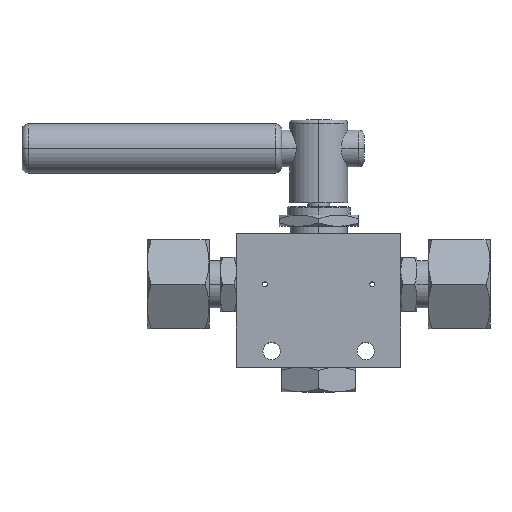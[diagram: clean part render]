
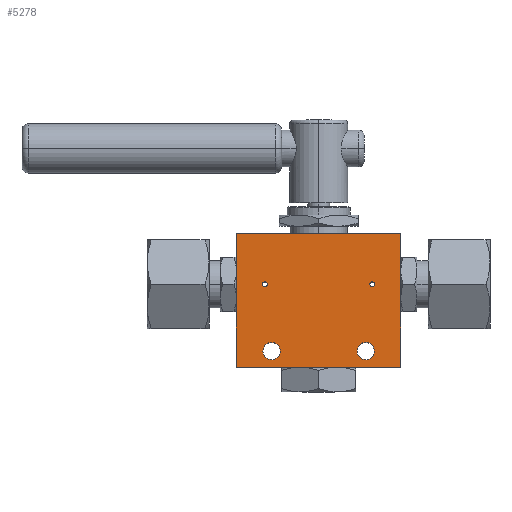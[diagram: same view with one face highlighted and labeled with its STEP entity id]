
A CAD part, top view. The second image highlights one B-rep face of the part: STEP entity #5278.
In plain terms, the highlighted planar face has unit normal (0, 0, 1).
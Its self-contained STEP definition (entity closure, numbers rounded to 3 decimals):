
#29 = CARTESIAN_POINT ( 'NONE',  ( -33.25, -27., 19. ) ) ;
#152 = CARTESIAN_POINT ( 'NONE',  ( -21.75, 6.5, 19. ) ) ;
#190 = CARTESIAN_POINT ( 'NONE',  ( 15.55, -20.5, 19. ) ) ;
#229 = FACE_BOUND ( 'NONE', #2037, .T. ) ;
#238 = DIRECTION ( 'NONE',  ( 0., 0., 1. ) ) ;
#538 = VERTEX_POINT ( 'NONE', #4428 ) ;
#629 = DIRECTION ( 'NONE',  ( 1., 0., 0. ) ) ;
#630 = VERTEX_POINT ( 'NONE', #2811 ) ;
#645 = EDGE_LOOP ( 'NONE', ( #3289, #1374, #3739, #3247 ) ) ;
#705 = CIRCLE ( 'NONE', #1522, 1. ) ;
#788 = FACE_OUTER_BOUND ( 'NONE', #645, .T. ) ;
#803 = EDGE_LOOP ( 'NONE', ( #3395, #1727 ) ) ;
#827 = VECTOR ( 'NONE', #2229, 1000. ) ;
#880 = CARTESIAN_POINT ( 'NONE',  ( -33.25, 27., 19. ) ) ;
#904 = EDGE_LOOP ( 'NONE', ( #2165, #2000 ) ) ;
#916 = EDGE_CURVE ( 'NONE', #5184, #3491, #5182, .T. ) ;
#936 = ORIENTED_EDGE ( 'NONE', *, *, #4090, .F. ) ;
#1009 = LINE ( 'NONE', #29, #1417 ) ;
#1077 = EDGE_CURVE ( 'NONE', #5290, #2723, #2966, .T. ) ;
#1149 = FACE_BOUND ( 'NONE', #3352, .T. ) ;
#1296 = DIRECTION ( 'NONE',  ( -1., 0., 0. ) ) ;
#1307 = CARTESIAN_POINT ( 'NONE',  ( -33.25, -27., 19. ) ) ;
#1311 = EDGE_CURVE ( 'NONE', #1761, #4190, #5627, .T. ) ;
#1349 = EDGE_CURVE ( 'NONE', #2723, #5290, #2759, .T. ) ;
#1374 = ORIENTED_EDGE ( 'NONE', *, *, #1311, .T. ) ;
#1417 = VECTOR ( 'NONE', #4459, 1000. ) ;
#1522 = AXIS2_PLACEMENT_3D ( 'NONE', #3513, #3957, #629 ) ;
#1616 = AXIS2_PLACEMENT_3D ( 'NONE', #152, #3892, #2532 ) ;
#1674 = CARTESIAN_POINT ( 'NONE',  ( 33.25, -27., 19. ) ) ;
#1727 = ORIENTED_EDGE ( 'NONE', *, *, #2896, .F. ) ;
#1761 = VERTEX_POINT ( 'NONE', #6211 ) ;
#1776 = LINE ( 'NONE', #3236, #3351 ) ;
#1778 = DIRECTION ( 'NONE',  ( 1., 0., 0. ) ) ;
#1786 = CARTESIAN_POINT ( 'NONE',  ( -33.25, 27., 19. ) ) ;
#1791 = DIRECTION ( 'NONE',  ( 1., 0., 0. ) ) ;
#1808 = CARTESIAN_POINT ( 'NONE',  ( -19.05, -20.5, 19. ) ) ;
#1868 = CARTESIAN_POINT ( 'NONE',  ( 20.75, 6.5, 19. ) ) ;
#1896 = CARTESIAN_POINT ( 'NONE',  ( -15.55, -20.5, 19. ) ) ;
#1993 = CARTESIAN_POINT ( 'NONE',  ( 22.55, -20.5, 19. ) ) ;
#2000 = ORIENTED_EDGE ( 'NONE', *, *, #1349, .F. ) ;
#2037 = EDGE_LOOP ( 'NONE', ( #4623, #936 ) ) ;
#2160 = PLANE ( 'NONE',  #3447 ) ;
#2165 = ORIENTED_EDGE ( 'NONE', *, *, #1077, .F. ) ;
#2167 = DIRECTION ( 'NONE',  ( 1., 0., 0. ) ) ;
#2189 = VERTEX_POINT ( 'NONE', #1896 ) ;
#2223 = EDGE_CURVE ( 'NONE', #630, #538, #4255, .T. ) ;
#2229 = DIRECTION ( 'NONE',  ( -1., 0., 0. ) ) ;
#2238 = EDGE_CURVE ( 'NONE', #4190, #2880, #1009, .T. ) ;
#2266 = CARTESIAN_POINT ( 'NONE',  ( 21.75, 6.5, 19. ) ) ;
#2532 = DIRECTION ( 'NONE',  ( 1., 0., 0. ) ) ;
#2553 = EDGE_CURVE ( 'NONE', #2880, #3564, #2748, .T. ) ;
#2671 = CARTESIAN_POINT ( 'NONE',  ( 0., 0., 19. ) ) ;
#2692 = CARTESIAN_POINT ( 'NONE',  ( 19.05, -20.5, 19. ) ) ;
#2723 = VERTEX_POINT ( 'NONE', #5821 ) ;
#2726 = FACE_BOUND ( 'NONE', #904, .T. ) ;
#2748 = LINE ( 'NONE', #4262, #5473 ) ;
#2759 = CIRCLE ( 'NONE', #4376, 1. ) ;
#2811 = CARTESIAN_POINT ( 'NONE',  ( -22.75, 6.5, 19. ) ) ;
#2880 = VERTEX_POINT ( 'NONE', #1307 ) ;
#2896 = EDGE_CURVE ( 'NONE', #2189, #4322, #4559, .T. ) ;
#2966 = CIRCLE ( 'NONE', #3255, 1. ) ;
#3081 = DIRECTION ( 'NONE',  ( 0., 0., 1. ) ) ;
#3134 = ORIENTED_EDGE ( 'NONE', *, *, #3452, .F. ) ;
#3236 = CARTESIAN_POINT ( 'NONE',  ( 33.25, -27., 19. ) ) ;
#3247 = ORIENTED_EDGE ( 'NONE', *, *, #2553, .T. ) ;
#3249 = CARTESIAN_POINT ( 'NONE',  ( 21.75, 6.5, 19. ) ) ;
#3255 = AXIS2_PLACEMENT_3D ( 'NONE', #2266, #6132, #1791 ) ;
#3289 = ORIENTED_EDGE ( 'NONE', *, *, #4801, .T. ) ;
#3343 = AXIS2_PLACEMENT_3D ( 'NONE', #1808, #4217, #1778 ) ;
#3351 = VECTOR ( 'NONE', #3711, 1000. ) ;
#3352 = EDGE_LOOP ( 'NONE', ( #4586, #3134 ) ) ;
#3395 = ORIENTED_EDGE ( 'NONE', *, *, #6013, .F. ) ;
#3447 = AXIS2_PLACEMENT_3D ( 'NONE', #2671, #6242, #1296 ) ;
#3452 = EDGE_CURVE ( 'NONE', #538, #630, #705, .T. ) ;
#3468 = DIRECTION ( 'NONE',  ( 1., 0., 0. ) ) ;
#3491 = VERTEX_POINT ( 'NONE', #1993 ) ;
#3513 = CARTESIAN_POINT ( 'NONE',  ( -21.75, 6.5, 19. ) ) ;
#3564 = VERTEX_POINT ( 'NONE', #1674 ) ;
#3711 = DIRECTION ( 'NONE',  ( 0., 1., 0. ) ) ;
#3739 = ORIENTED_EDGE ( 'NONE', *, *, #2238, .T. ) ;
#3877 = CARTESIAN_POINT ( 'NONE',  ( 19.05, -20.5, 19. ) ) ;
#3892 = DIRECTION ( 'NONE',  ( 0., 0., 1. ) ) ;
#3957 = DIRECTION ( 'NONE',  ( 0., 0., 1. ) ) ;
#4090 = EDGE_CURVE ( 'NONE', #3491, #5184, #6142, .T. ) ;
#4190 = VERTEX_POINT ( 'NONE', #880 ) ;
#4217 = DIRECTION ( 'NONE',  ( 0., 0., 1. ) ) ;
#4255 = CIRCLE ( 'NONE', #1616, 1. ) ;
#4262 = CARTESIAN_POINT ( 'NONE',  ( -33.25, -27., 19. ) ) ;
#4322 = VERTEX_POINT ( 'NONE', #6204 ) ;
#4376 = AXIS2_PLACEMENT_3D ( 'NONE', #3249, #4703, #6098 ) ;
#4428 = CARTESIAN_POINT ( 'NONE',  ( -20.75, 6.5, 19. ) ) ;
#4459 = DIRECTION ( 'NONE',  ( 0., -1., 0. ) ) ;
#4559 = CIRCLE ( 'NONE', #3343, 3.5 ) ;
#4586 = ORIENTED_EDGE ( 'NONE', *, *, #2223, .F. ) ;
#4623 = ORIENTED_EDGE ( 'NONE', *, *, #916, .F. ) ;
#4656 = FACE_BOUND ( 'NONE', #803, .T. ) ;
#4703 = DIRECTION ( 'NONE',  ( 0., 0., 1. ) ) ;
#4758 = AXIS2_PLACEMENT_3D ( 'NONE', #5051, #238, #2167 ) ;
#4801 = EDGE_CURVE ( 'NONE', #3564, #1761, #1776, .T. ) ;
#4802 = DIRECTION ( 'NONE',  ( 1., 0., 0. ) ) ;
#4811 = CIRCLE ( 'NONE', #4758, 3.5 ) ;
#4937 = AXIS2_PLACEMENT_3D ( 'NONE', #3877, #5813, #3468 ) ;
#5007 = DIRECTION ( 'NONE',  ( 1., 0., 0. ) ) ;
#5051 = CARTESIAN_POINT ( 'NONE',  ( -19.05, -20.5, 19. ) ) ;
#5182 = CIRCLE ( 'NONE', #5397, 3.5 ) ;
#5184 = VERTEX_POINT ( 'NONE', #190 ) ;
#5278 = ADVANCED_FACE ( 'NONE', ( #788, #1149, #2726, #4656, #229 ), #2160, .F. ) ;
#5290 = VERTEX_POINT ( 'NONE', #1868 ) ;
#5397 = AXIS2_PLACEMENT_3D ( 'NONE', #2692, #3081, #5007 ) ;
#5473 = VECTOR ( 'NONE', #4802, 1000. ) ;
#5627 = LINE ( 'NONE', #1786, #827 ) ;
#5813 = DIRECTION ( 'NONE',  ( 0., 0., 1. ) ) ;
#5821 = CARTESIAN_POINT ( 'NONE',  ( 22.75, 6.5, 19. ) ) ;
#6013 = EDGE_CURVE ( 'NONE', #4322, #2189, #4811, .T. ) ;
#6098 = DIRECTION ( 'NONE',  ( 1., 0., 0. ) ) ;
#6132 = DIRECTION ( 'NONE',  ( 0., 0., 1. ) ) ;
#6142 = CIRCLE ( 'NONE', #4937, 3.5 ) ;
#6204 = CARTESIAN_POINT ( 'NONE',  ( -22.55, -20.5, 19. ) ) ;
#6211 = CARTESIAN_POINT ( 'NONE',  ( 33.25, 27., 19. ) ) ;
#6242 = DIRECTION ( 'NONE',  ( 0., 0., -1. ) ) ;
